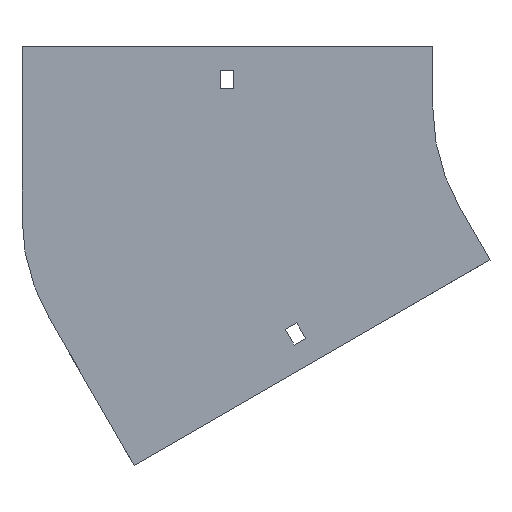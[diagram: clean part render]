
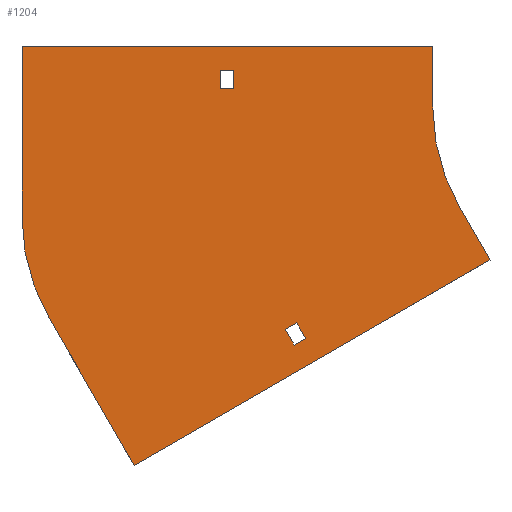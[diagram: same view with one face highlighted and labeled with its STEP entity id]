
A CAD part, front view. The second image highlights one B-rep face of the part: STEP entity #1204.
In plain terms, the highlighted planar face has unit normal (0, -1, 0).
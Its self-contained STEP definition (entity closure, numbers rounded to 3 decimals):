
#1 = LINE ( 'NONE', #598, #1787 ) ;
#14 = VECTOR ( 'NONE', #450, 1000. ) ;
#21 = DIRECTION ( 'NONE',  ( 0., -1., 0. ) ) ;
#26 = LINE ( 'NONE', #1258, #267 ) ;
#31 = DIRECTION ( 'NONE',  ( -0.866, 0., -0.5 ) ) ;
#32 = CARTESIAN_POINT ( 'NONE',  ( -100., 0., 30. ) ) ;
#42 = CARTESIAN_POINT ( 'NONE',  ( 0., 0., 0. ) ) ;
#50 = DIRECTION ( 'NONE',  ( 0., 0., -1. ) ) ;
#94 = VERTEX_POINT ( 'NONE', #1622 ) ;
#96 = EDGE_CURVE ( 'NONE', #1401, #331, #1, .T. ) ;
#125 = ORIENTED_EDGE ( 'NONE', *, *, #915, .F. ) ;
#136 = CARTESIAN_POINT ( 'NONE',  ( 0., 0., 0. ) ) ;
#145 = FACE_BOUND ( 'NONE', #1488, .T. ) ;
#172 = CARTESIAN_POINT ( 'NONE',  ( -304., 0., -54.662 ) ) ;
#185 = DIRECTION ( 'NONE',  ( -0.866, 0., -0.5 ) ) ;
#211 = CARTESIAN_POINT ( 'NONE',  ( -205.25, 0., 18. ) ) ;
#229 = CARTESIAN_POINT ( 'NONE',  ( -198.75, 0., 18. ) ) ;
#233 = VERTEX_POINT ( 'NONE', #1948 ) ;
#248 = DIRECTION ( 'NONE',  ( 1., 0., 0. ) ) ;
#253 = VERTEX_POINT ( 'NONE', #1868 ) ;
#254 = CARTESIAN_POINT ( 'NONE',  ( -173.252, 0., -110.419 ) ) ;
#261 = CARTESIAN_POINT ( 'NONE',  ( -86.603, 0., -50. ) ) ;
#267 = VECTOR ( 'NONE', #503, 1000. ) ;
#269 = VERTEX_POINT ( 'NONE', #516 ) ;
#311 = DIRECTION ( 'NONE',  ( 0., 0., -1. ) ) ;
#316 = CARTESIAN_POINT ( 'NONE',  ( -173.252, 0., -110.419 ) ) ;
#329 = ORIENTED_EDGE ( 'NONE', *, *, #1342, .F. ) ;
#331 = VERTEX_POINT ( 'NONE', #229 ) ;
#339 = CARTESIAN_POINT ( 'NONE',  ( -304., 0., 30. ) ) ;
#341 = DIRECTION ( 'NONE',  ( 0., 0., 1. ) ) ;
#349 = VERTEX_POINT ( 'NONE', #254 ) ;
#368 = ORIENTED_EDGE ( 'NONE', *, *, #842, .F. ) ;
#392 = ORIENTED_EDGE ( 'NONE', *, *, #937, .F. ) ;
#436 = LINE ( 'NONE', #1370, #654 ) ;
#443 = VECTOR ( 'NONE', #50, 1000. ) ;
#450 = DIRECTION ( 'NONE',  ( 0., 0., -1. ) ) ;
#474 = CARTESIAN_POINT ( 'NONE',  ( -205.25, 0., 9. ) ) ;
#484 = DIRECTION ( 'NONE',  ( 0.5, 0., -0.866 ) ) ;
#495 = CARTESIAN_POINT ( 'NONE',  ( -86.603, 0., -50. ) ) ;
#503 = DIRECTION ( 'NONE',  ( -0.5, 0., 0.866 ) ) ;
#513 = VECTOR ( 'NONE', #637, 1000. ) ;
#516 = CARTESIAN_POINT ( 'NONE',  ( -163.123, 0., -114.963 ) ) ;
#520 = DIRECTION ( 'NONE',  ( 0., -1., 0. ) ) ;
#538 = VECTOR ( 'NONE', #248, 1000. ) ;
#566 = EDGE_CURVE ( 'NONE', #1596, #1072, #938, .T. ) ;
#570 = ORIENTED_EDGE ( 'NONE', *, *, #1743, .T. ) ;
#572 = LINE ( 'NONE', #709, #1169 ) ;
#597 = CARTESIAN_POINT ( 'NONE',  ( -198.75, 0., 9. ) ) ;
#598 = CARTESIAN_POINT ( 'NONE',  ( -205.25, 0., 18. ) ) ;
#601 = VERTEX_POINT ( 'NONE', #32 ) ;
#610 = EDGE_CURVE ( 'NONE', #269, #1911, #1078, .T. ) ;
#637 = DIRECTION ( 'NONE',  ( -1., 0., 0. ) ) ;
#654 = VECTOR ( 'NONE', #31, 1000. ) ;
#656 = LINE ( 'NONE', #316, #1111 ) ;
#709 = CARTESIAN_POINT ( 'NONE',  ( -304., 0., -54.662 ) ) ;
#717 = LINE ( 'NONE', #1724, #986 ) ;
#729 = PLANE ( 'NONE',  #1229 ) ;
#750 = ORIENTED_EDGE ( 'NONE', *, *, #566, .T. ) ;
#776 = CARTESIAN_POINT ( 'NONE',  ( -205.25, 0., 9. ) ) ;
#785 = CARTESIAN_POINT ( 'NONE',  ( -167.623, 0., -107.169 ) ) ;
#800 = VERTEX_POINT ( 'NONE', #261 ) ;
#831 = CARTESIAN_POINT ( 'NONE',  ( -290.603, 0., -104.662 ) ) ;
#842 = EDGE_CURVE ( 'NONE', #233, #1003, #436, .T. ) ;
#844 = CARTESIAN_POINT ( 'NONE',  ( -205.25, 0., 9. ) ) ;
#875 = VERTEX_POINT ( 'NONE', #172 ) ;
#914 = CIRCLE ( 'NONE', #1166, 100. ) ;
#915 = EDGE_CURVE ( 'NONE', #94, #800, #914, .T. ) ;
#933 = CARTESIAN_POINT ( 'NONE',  ( -100., 0., 30. ) ) ;
#936 = EDGE_CURVE ( 'NONE', #601, #94, #1386, .T. ) ;
#937 = EDGE_CURVE ( 'NONE', #1911, #349, #1560, .T. ) ;
#938 = LINE ( 'NONE', #474, #513 ) ;
#946 = VECTOR ( 'NONE', #1230, 1000. ) ;
#974 = ORIENTED_EDGE ( 'NONE', *, *, #1087, .F. ) ;
#986 = VECTOR ( 'NONE', #1419, 1000. ) ;
#992 = AXIS2_PLACEMENT_3D ( 'NONE', #1678, #1251, #1261 ) ;
#1003 = VERTEX_POINT ( 'NONE', #1717 ) ;
#1008 = VERTEX_POINT ( 'NONE', #339 ) ;
#1049 = EDGE_CURVE ( 'NONE', #875, #1008, #572, .T. ) ;
#1072 = VERTEX_POINT ( 'NONE', #844 ) ;
#1078 = LINE ( 'NONE', #785, #946 ) ;
#1087 = EDGE_CURVE ( 'NONE', #1008, #601, #1141, .T. ) ;
#1091 = VERTEX_POINT ( 'NONE', #831 ) ;
#1111 = VECTOR ( 'NONE', #1523, 1000. ) ;
#1112 = ORIENTED_EDGE ( 'NONE', *, *, #1049, .F. ) ;
#1121 = CARTESIAN_POINT ( 'NONE',  ( -173.252, 0., -110.419 ) ) ;
#1131 = DIRECTION ( 'NONE',  ( 0., 0., 1. ) ) ;
#1136 = CIRCLE ( 'NONE', #992, 100. ) ;
#1141 = LINE ( 'NONE', #1772, #538 ) ;
#1166 = AXIS2_PLACEMENT_3D ( 'NONE', #42, #520, #1700 ) ;
#1169 = VECTOR ( 'NONE', #1131, 1000. ) ;
#1184 = ORIENTED_EDGE ( 'NONE', *, *, #1659, .T. ) ;
#1192 = FACE_OUTER_BOUND ( 'NONE', #1512, .T. ) ;
#1204 = ADVANCED_FACE ( 'NONE', ( #145, #1192, #1474 ), #729, .T. ) ;
#1229 = AXIS2_PLACEMENT_3D ( 'NONE', #136, #21, #311 ) ;
#1230 = DIRECTION ( 'NONE',  ( -0.5, 0., 0.866 ) ) ;
#1250 = ORIENTED_EDGE ( 'NONE', *, *, #1396, .F. ) ;
#1251 = DIRECTION ( 'NONE',  ( 0., 1., 0. ) ) ;
#1258 = CARTESIAN_POINT ( 'NONE',  ( -248.272, 0., -177.981 ) ) ;
#1261 = DIRECTION ( 'NONE',  ( 0., 0., 1. ) ) ;
#1289 = ORIENTED_EDGE ( 'NONE', *, *, #1692, .F. ) ;
#1299 = DIRECTION ( 'NONE',  ( 1., 0., 0. ) ) ;
#1341 = ORIENTED_EDGE ( 'NONE', *, *, #1691, .F. ) ;
#1342 = EDGE_CURVE ( 'NONE', #1091, #875, #1136, .T. ) ;
#1347 = LINE ( 'NONE', #597, #14 ) ;
#1370 = CARTESIAN_POINT ( 'NONE',  ( -71.603, 0., -75.981 ) ) ;
#1382 = LINE ( 'NONE', #495, #1902 ) ;
#1386 = LINE ( 'NONE', #933, #443 ) ;
#1396 = EDGE_CURVE ( 'NONE', #800, #233, #1382, .T. ) ;
#1401 = VERTEX_POINT ( 'NONE', #211 ) ;
#1419 = DIRECTION ( 'NONE',  ( 0.866, 0., 0.5 ) ) ;
#1474 = FACE_BOUND ( 'NONE', #1594, .T. ) ;
#1488 = EDGE_LOOP ( 'NONE', ( #570, #1936, #1184, #750 ) ) ;
#1508 = LINE ( 'NONE', #776, #1576 ) ;
#1512 = EDGE_LOOP ( 'NONE', ( #974, #1112, #329, #1289, #368, #1250, #125, #1875 ) ) ;
#1523 = DIRECTION ( 'NONE',  ( 0.5, 0., -0.866 ) ) ;
#1524 = EDGE_CURVE ( 'NONE', #253, #269, #717, .T. ) ;
#1560 = LINE ( 'NONE', #1121, #1698 ) ;
#1576 = VECTOR ( 'NONE', #341, 1000. ) ;
#1594 = EDGE_LOOP ( 'NONE', ( #1871, #1341, #392, #1925 ) ) ;
#1596 = VERTEX_POINT ( 'NONE', #1621 ) ;
#1621 = CARTESIAN_POINT ( 'NONE',  ( -198.75, 0., 9. ) ) ;
#1622 = CARTESIAN_POINT ( 'NONE',  ( -100., 0., 0. ) ) ;
#1659 = EDGE_CURVE ( 'NONE', #331, #1596, #1347, .T. ) ;
#1678 = CARTESIAN_POINT ( 'NONE',  ( -204., 0., -54.662 ) ) ;
#1691 = EDGE_CURVE ( 'NONE', #349, #253, #656, .T. ) ;
#1692 = EDGE_CURVE ( 'NONE', #1003, #1091, #26, .T. ) ;
#1698 = VECTOR ( 'NONE', #185, 1000. ) ;
#1700 = DIRECTION ( 'NONE',  ( 0., 0., -1. ) ) ;
#1717 = CARTESIAN_POINT ( 'NONE',  ( -248.272, 0., -177.981 ) ) ;
#1724 = CARTESIAN_POINT ( 'NONE',  ( -168.752, 0., -118.213 ) ) ;
#1743 = EDGE_CURVE ( 'NONE', #1072, #1401, #1508, .T. ) ;
#1772 = CARTESIAN_POINT ( 'NONE',  ( -304., 0., 30. ) ) ;
#1787 = VECTOR ( 'NONE', #1299, 1000. ) ;
#1861 = CARTESIAN_POINT ( 'NONE',  ( -167.623, 0., -107.169 ) ) ;
#1868 = CARTESIAN_POINT ( 'NONE',  ( -168.752, 0., -118.213 ) ) ;
#1871 = ORIENTED_EDGE ( 'NONE', *, *, #1524, .F. ) ;
#1875 = ORIENTED_EDGE ( 'NONE', *, *, #936, .F. ) ;
#1902 = VECTOR ( 'NONE', #484, 1000. ) ;
#1911 = VERTEX_POINT ( 'NONE', #1861 ) ;
#1925 = ORIENTED_EDGE ( 'NONE', *, *, #610, .F. ) ;
#1936 = ORIENTED_EDGE ( 'NONE', *, *, #96, .T. ) ;
#1948 = CARTESIAN_POINT ( 'NONE',  ( -71.603, 0., -75.981 ) ) ;
